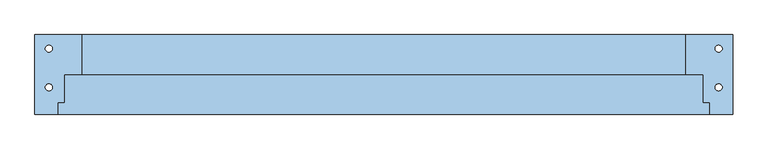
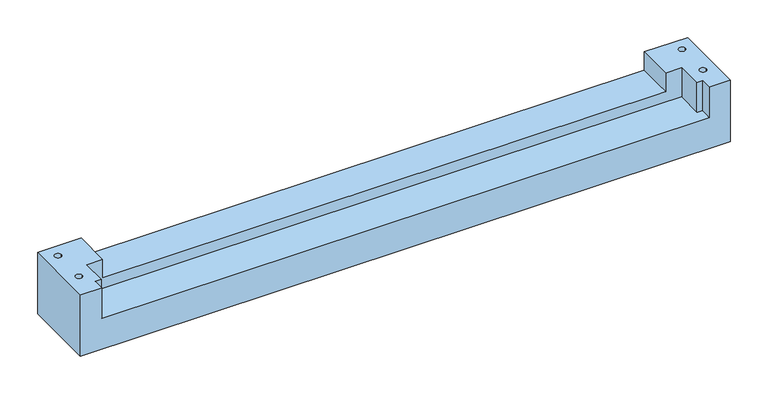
"""IFC4 building model written with IfcOpenShell, lengths in millimetres: window geometry, 30_NS_BU_67-72 : BU-67_neut_30."""

from ifc_helpers import new_model, si_unit, frame, origin, place, context, project, spatial, polyline, circle_curve, source, transform, mapped, element, save
from ifc_brep_helpers import plane_surface, revolved_surface, advanced_brep


def window_54dc3dba(model_context):
    return source(origin(), model_context, "Body", "AdvancedBrep", [
        advanced_brep(
        [(0.0, -114.0, 0.0), (0.0, 0.0, 0.0), (1000.0, 0.0, 0.0), (1000.0, -114.0, 0.0), (15.0, -75.4521719, 0.0), (25.0, -75.4521719, 0.0), (15.0, -20.0, 0.0), (25.0, -20.0, 0.0), (975.0, -20.0, 0.0), (985.0, -20.0, 0.0), (975.0, -75.4521719, 0.0), (985.0, -75.4521719, 0.0), (67.0, 0.0, 100.0), (0.0, 0.0, 100.0), (0.0, -114.0, 100.0), (33.0, -114.0, 100.0), (33.0, -97.0, 100.0), (42.0, -97.0, 100.0), (42.0, -57.0, 100.0), (67.0, -57.0, 100.0), (25.0, -75.4521719, 100.0), (15.0, -75.4521719, 100.0), (25.0, -20.0, 100.0), (15.0, -20.0, 100.0), (1000.0, 0.0, 100.0), (1000.0, -114.0, 100.0), (42.0, -57.0, 52.6427741), (42.0, -97.0, 50.9631857), (33.0, -97.0, 50.9631857), (33.0, -114.0, 50.2493606), (967.0, -114.0, 50.2493606), (967.0, -97.0, 50.9631857), (958.0, -97.0, 50.9631857), (958.0, -57.0, 52.6427741), (975.0, -20.0, 100.0), (985.0, -20.0, 100.0), (975.0, -75.4521719, 100.0), (985.0, -75.4521719, 100.0), (958.0, -57.0, 100.0), (933.0, -57.0, 100.0), (933.0, -57.0, 70.0), (67.0, -57.0, 70.0), (967.0, -114.0, 100.0), (67.0, 0.0, 70.0), (933.0, 0.0, 70.0), (933.0, 0.0, 100.0), (967.0, -97.0, 100.0), (958.0, -97.0, 100.0)],
        [
            (0, 1),
            (1, 2),
            (2, 3),
            (3, 0),
            (4, 5, circle_curve(frame((20.0, -75.4521719, 0.0), z_axis=(0.0, 0.0, 1.0), x_axis=(1.0, 0.0, 0.0)), 5.0)),
            (5, 4, circle_curve(frame((20.0, -75.4521719, 0.0), z_axis=(0.0, 0.0, 1.0), x_axis=(1.0, 0.0, 0.0)), 5.0)),
            (6, 7, circle_curve(frame((20.0, -20.0, 0.0), z_axis=(0.0, 0.0, 1.0), x_axis=(1.0, 0.0, 0.0)), 5.0)),
            (7, 6, circle_curve(frame((20.0, -20.0, 0.0), z_axis=(0.0, 0.0, 1.0), x_axis=(1.0, 0.0, 0.0)), 5.0)),
            (8, 9, circle_curve(frame((980.0, -20.0, 0.0), z_axis=(0.0, 0.0, 1.0), x_axis=(1.0, 0.0, 0.0)), 5.0)),
            (9, 8, circle_curve(frame((980.0, -20.0, 0.0), z_axis=(0.0, 0.0, 1.0), x_axis=(1.0, 0.0, 0.0)), 5.0)),
            (10, 11, circle_curve(frame((980.0, -75.4521719, 0.0), z_axis=(0.0, 0.0, 1.0), x_axis=(1.0, 0.0, 0.0)), 5.0)),
            (11, 10, circle_curve(frame((980.0, -75.4521719, 0.0), z_axis=(0.0, 0.0, 1.0), x_axis=(1.0, 0.0, 0.0)), 5.0)),
            (12, 13),
            (13, 14),
            (14, 15),
            (15, 16),
            (16, 17),
            (17, 18),
            (18, 19),
            (19, 12),
            (20, 21, circle_curve(frame((20.0, -75.4521719, 100.0), z_axis=(0.0, 0.0, -1.0), x_axis=(1.0, 0.0, 0.0)), 5.0)),
            (21, 20, circle_curve(frame((20.0, -75.4521719, 100.0), z_axis=(0.0, 0.0, -1.0), x_axis=(1.0, 0.0, 0.0)), 5.0)),
            (22, 23, circle_curve(frame((20.0, -20.0, 100.0), z_axis=(0.0, 0.0, -1.0), x_axis=(1.0, 0.0, 0.0)), 5.0)),
            (23, 22, circle_curve(frame((20.0, -20.0, 100.0), z_axis=(0.0, 0.0, -1.0), x_axis=(1.0, 0.0, 0.0)), 5.0)),
            (2, 24),
            (24, 25),
            (25, 3),
            (26, 27),
            (27, 28),
            (28, 29),
            (29, 30),
            (30, 31),
            (31, 32),
            (32, 33),
            (33, 26),
            (4, 21),
            (20, 5),
            (6, 23),
            (22, 7),
            (8, 34),
            (34, 35, circle_curve(frame((980.0, -20.0, 100.0), z_axis=(0.0, 0.0, 1.0), x_axis=(1.0, 0.0, 0.0)), 5.0)),
            (35, 9),
            (35, 34, circle_curve(frame((980.0, -20.0, 100.0), z_axis=(0.0, 0.0, 1.0), x_axis=(1.0, 0.0, 0.0)), 5.0)),
            (10, 36),
            (36, 37, circle_curve(frame((980.0, -75.4521719, 100.0), z_axis=(0.0, 0.0, 1.0), x_axis=(1.0, 0.0, 0.0)), 5.0)),
            (37, 11),
            (37, 36, circle_curve(frame((980.0, -75.4521719, 100.0), z_axis=(0.0, 0.0, 1.0), x_axis=(1.0, 0.0, 0.0)), 5.0)),
            (18, 26),
            (33, 38),
            (38, 39),
            (39, 40),
            (40, 41),
            (41, 19),
            (17, 27),
            (16, 28),
            (15, 29),
            (14, 0),
            (25, 42),
            (42, 30),
            (13, 1),
            (12, 43),
            (43, 44),
            (44, 45),
            (45, 24),
            (42, 46),
            (46, 31),
            (46, 47),
            (47, 32),
            (47, 38),
            (43, 41),
            (40, 44),
            (45, 39),
        ],
        [
            plane_surface(frame((0.0, 0.0, 0.0), z_axis=(0.0, 0.0, -1.0), x_axis=(1.0, 0.0, 0.0))),
            plane_surface(frame((0.0, 0.0, 100.0), z_axis=(0.0, 0.0, 1.0), x_axis=(1.0, 0.0, 0.0))),
            plane_surface(frame((1000.0, 0.0, 0.0), z_axis=(1.0, 0.0, 0.0), x_axis=(0.0, 0.0, 1.0))),
            plane_surface(frame((0.0, -114.0, 50.2493606), z_axis=(0.0, -0.04195274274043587, 0.9991195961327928), x_axis=(1.0, 0.0, 0.0))),
            revolved_surface(polyline([(25.0, -75.4521719, 0.0), (25.0, -75.4521719, 100.0)]), (20.0, -75.4521719, 0.0), (0.0, 0.0, -1.0)),
            revolved_surface(polyline([(25.0, -20.0, 0.0), (25.0, -20.0, 100.0)]), (20.0, -20.0, 0.0), (0.0, 0.0, -1.0)),
            revolved_surface(polyline([(985.0, -20.0, 0.0), (985.0, -20.0, 100.0)]), (980.0, -20.0, 0.0), (0.0, 0.0, -1.0)),
            revolved_surface(polyline([(985.0, -75.4521719, 0.0), (985.0, -75.4521719, 100.0)]), (980.0, -75.4521719, 0.0), (0.0, 0.0, -1.0)),
            plane_surface(frame((67.0, -57.0, 0.0), z_axis=(0.0, -1.0, 0.0), x_axis=(0.0, 0.0, 1.0))),
            plane_surface(frame((42.0, -57.0, 0.0), z_axis=(1.0, 0.0, 0.0), x_axis=(0.0, 0.0, 1.0))),
            plane_surface(frame((42.0, -97.0, 0.0), z_axis=(0.0, -1.0, 0.0), x_axis=(0.0, 0.0, 1.0))),
            plane_surface(frame((33.0, -97.0, 0.0), z_axis=(1.0, 0.0, 0.0), x_axis=(0.0, 0.0, 1.0))),
            plane_surface(frame((33.0, -114.0, 0.0), z_axis=(0.0, -1.0, 0.0), x_axis=(0.0, 0.0, 1.0))),
            plane_surface(frame((0.0, -114.0, 0.0), z_axis=(-1.0, 0.0, 0.0), x_axis=(0.0, 0.0, 1.0))),
            plane_surface(frame((0.0, 0.0, 0.0), z_axis=(0.0, 1.0, 0.0), x_axis=(0.0, 0.0, 1.0))),
            plane_surface(frame((967.0, -114.0, 0.0), z_axis=(-1.0, 0.0, 0.0), x_axis=(0.0, 0.0, 1.0))),
            plane_surface(frame((967.0, -97.0, 0.0), z_axis=(0.0, -1.0, 0.0), x_axis=(0.0, 0.0, 1.0))),
            plane_surface(frame((958.0, -97.0, 0.0), z_axis=(-1.0, 0.0, 0.0), x_axis=(0.0, 0.0, 1.0))),
            plane_surface(frame((0.0, -57.0, 70.0), z_axis=(0.0, 0.0, 1.0), x_axis=(1.0, 0.0, 0.0))),
            plane_surface(frame((1000.0, 0.0, 100.0), z_axis=(0.0, 0.0, 1.0), x_axis=(1.0, 0.0, 0.0))),
            plane_surface(frame((67.0, 0.0, 0.0), z_axis=(1.0, 0.0, 0.0), x_axis=(0.0, 0.0, 1.0))),
            plane_surface(frame((933.0, -57.0, 0.0), z_axis=(-1.0, 0.0, 0.0), x_axis=(0.0, 0.0, 1.0))),
        ],
        [
            (0, [[1, 2, 3, 4], [5, 6], [7, 8], [9, 10], [11, 12]]),
            (1, [[13, 14, 15, 16, 17, 18, 19, 20], [21, 22], [23, 24]]),
            (2, [[-3, 25, 26, 27]]),
            (3, [[28, 29, 30, 31, 32, 33, 34, 35]]),
            (4, [[36, -21, 37, -5]]),
            (4, [[-36, -6, -37, -22]]),
            (5, [[38, -23, 39, -7]]),
            (5, [[-38, -8, -39, -24]]),
            (6, [[40, 41, 42, -9]]),
            (6, [[-40, -10, -42, 43]]),
            (7, [[44, 45, 46, -11]]),
            (7, [[-44, -12, -46, 47]]),
            (8, [[-19, 48, -35, 49, 50, 51, 52, 53]]),
            (9, [[-18, 54, -28, -48]]),
            (10, [[-17, 55, -29, -54]]),
            (11, [[-16, 56, -30, -55]]),
            (12, [[-15, 57, -4, -27, 58, 59, -31, -56]]),
            (13, [[-1, -57, -14, 60]]),
            (14, [[-13, 61, 62, 63, 64, -25, -2, -60]]),
            (15, [[65, 66, -32, -59]]),
            (16, [[67, 68, -33, -66]]),
            (17, [[69, -49, -34, -68]]),
            (18, [[70, -52, 71, -62]]),
            (19, [[72, -50, -69, -67, -65, -58, -26, -64], [-41, -43], [-45, -47]]),
            (20, [[-20, -53, -70, -61]]),
            (21, [[-72, -63, -71, -51]]),
        ],
    ),
    ])


if __name__ == "__main__":
    model = new_model("IFC4")
    model_context = context("Model", 3, world=origin())
    ifc_project = project(units=[si_unit("LENGTHUNIT", "METRE", prefix="MILLI")], contexts=[model_context])
    site = spatial("IfcSite", under=ifc_project)
    building = spatial("IfcBuilding", under=site)
    placement = place(None, origin())
    window_shape = window_54dc3dba(model_context)
    element("IfcWindow", 1, ObjectType="30_NS_BU_67-72 : BU-67_neut_30", at=placement, inside=building, context=model_context, shape_type="MappedRepresentation", body=[
        mapped(window_shape, transform((0.0, 0.0, 0.0), x_axis=(1.0, 0.0, 0.0), y_axis=(0.0, 1.0, 0.0), z_axis=(0.0, 0.0, 1.0))),
    ])
    save(model, "model.ifc")
